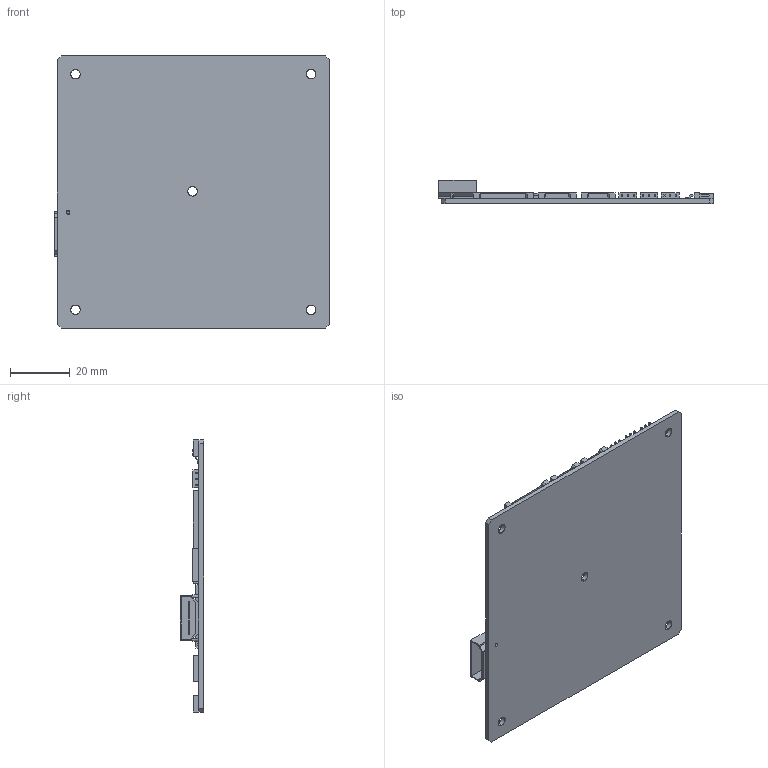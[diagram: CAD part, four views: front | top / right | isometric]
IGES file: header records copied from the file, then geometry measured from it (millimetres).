
Start section: SolidWorks IGES file using analytic representation for surfaces
Global section: file name: F:\DV 3D PCBs\DT-1920-HDMI-EDPt Files 191211\release files 191215\Assy PCB DT-1920-HDMI-EDP 417660210-3 191215.IGS; native system: SolidWorks 2019; preprocessor: SolidWorks 2019; author: MH2; date: 191215.155245; units: inch
Bounding box: 92.31 x 7.78 x 91.44 mm (x, y, z)
Surface area: 21458.1 mm2 (no closed solid volume)
Topology: 0 solids, 0 shells, 646 faces, 3500 edges, 3500 vertices
Faces by surface type: bspline 624, revolution 22
